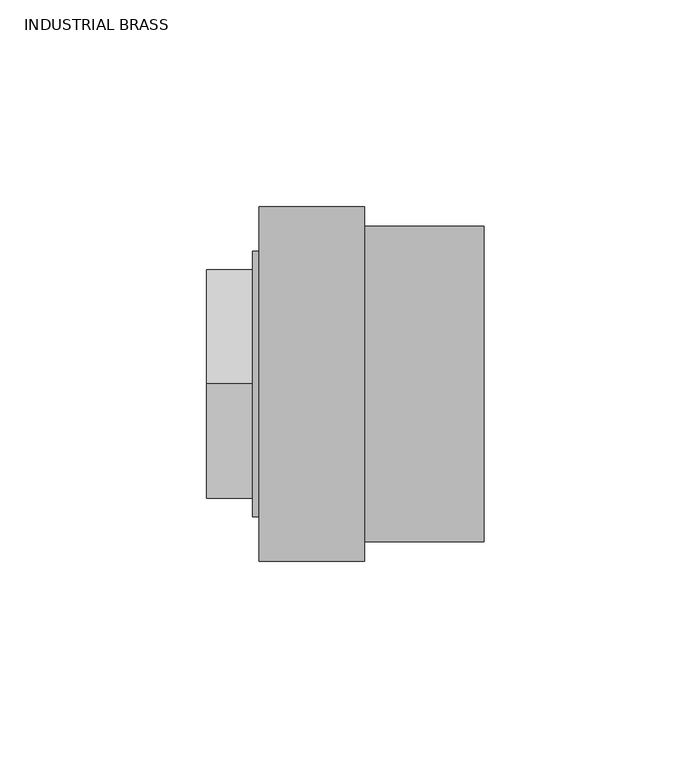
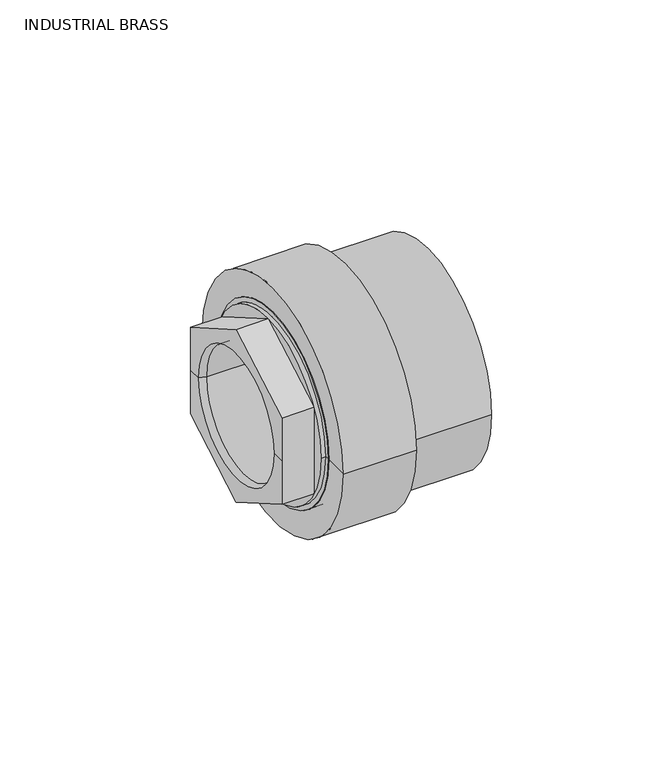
"""IFC4 building model written with IfcOpenShell, lengths in millimetres: valve geometry, Aquatherm - Transition Piece - F HEX : INDUSTRIAL BRASS."""

from ifc_helpers import new_model, si_unit, frame, origin, place, context, project, spatial, polyline, circle_curve, source, transform, mapped, element, save
from ifc_brep_helpers import plane_surface, cylinder_surface, revolved_surface, advanced_brep


def industrial_brass_2c6236fe(model_context):
    return source(origin(), model_context, "Body", "AdvancedBrep", [
        advanced_brep(
        [(9.525, -22.225, 0.0), (9.525, 22.225, 0.0), (-10.1203125, 22.225, 0.0), (-10.1203125, -22.225, 0.0), (9.525, -23.01875, 0.0), (9.525, 23.01875, 0.0), (12.7, -23.01875, 0.0), (12.7, 23.01875, 0.0), (12.7, -19.05, 0.0), (12.7, 19.05, 0.0), (15.875, -19.05, 0.0), (15.875, 19.05, 0.0), (15.875, -33.782, 0.0), (15.875, 33.782, 0.0), (0.0, -33.782, 0.0), (0.0, 33.782, 0.0), (-12.7, -23.01875, 0.0), (-12.7, 23.01875, 0.0), (-12.7, 27.559, 0.0), (-12.7, 27.559, -15.9111961), (-12.7, 0.0, -31.8223921), (-12.7, -27.559, -15.9111961), (-12.7, -27.559, 0.0), (-12.7, -27.559, 15.9111961), (-12.7, 0.0, 31.8223921), (-12.7, 27.559, 15.9111961), (0.0, -32.131, 0.0), (0.0, 32.131, 0.0), (-1.5875, -32.131, 0.0), (-1.5875, 32.131, 0.0), (-1.5875, 0.0, -31.8223921), (-1.5875, 27.559, -15.9111961), (-1.5875, 27.559, 15.9111961), (-1.5875, 0.0, 31.8223921), (-1.5875, -27.559, 15.9111961), (-1.5875, -27.559, -15.9111961)],
        [
            (0, 1, circle_curve(frame((9.525, 0.0, 0.0), z_axis=(1.0, 0.0, 0.0), x_axis=(0.0, 1.0, 0.0)), 22.225)),
            (1, 2),
            (2, 3, circle_curve(frame((-10.1203125, 0.0, 0.0), z_axis=(-1.0, 0.0, 0.0), x_axis=(0.0, 1.0, 0.0)), 22.225)),
            (3, 0),
            (1, 0, circle_curve(frame((9.525, 0.0, 0.0), z_axis=(1.0, 0.0, 0.0), x_axis=(0.0, 1.0, 0.0)), 22.225)),
            (3, 2, circle_curve(frame((-10.1203125, 0.0, 0.0), z_axis=(-1.0, 0.0, 0.0), x_axis=(0.0, 1.0, 0.0)), 22.225)),
            (0, 4),
            (4, 5, circle_curve(frame((9.525, 0.0, 0.0), z_axis=(1.0, 0.0, 0.0), x_axis=(0.0, 1.0, 0.0)), 23.01875)),
            (5, 1),
            (5, 4, circle_curve(frame((9.525, 0.0, 0.0), z_axis=(1.0, 0.0, 0.0), x_axis=(0.0, 1.0, 0.0)), 23.01875)),
            (4, 6),
            (6, 7, circle_curve(frame((12.7, 0.0, 0.0), z_axis=(1.0, 0.0, 0.0), x_axis=(0.0, 1.0, 0.0)), 23.01875)),
            (7, 5),
            (7, 6, circle_curve(frame((12.7, 0.0, 0.0), z_axis=(1.0, 0.0, 0.0), x_axis=(0.0, 1.0, 0.0)), 23.01875)),
            (6, 8),
            (8, 9, circle_curve(frame((12.7, 0.0, 0.0), z_axis=(1.0, 0.0, 0.0), x_axis=(0.0, 1.0, 0.0)), 19.05)),
            (9, 7),
            (9, 8, circle_curve(frame((12.7, 0.0, 0.0), z_axis=(1.0, 0.0, 0.0), x_axis=(0.0, 1.0, 0.0)), 19.05)),
            (8, 10),
            (10, 11, circle_curve(frame((15.875, 0.0, 0.0), z_axis=(1.0, 0.0, 0.0), x_axis=(0.0, 1.0, 0.0)), 19.05)),
            (11, 9),
            (11, 10, circle_curve(frame((15.875, 0.0, 0.0), z_axis=(1.0, 0.0, 0.0), x_axis=(0.0, 1.0, 0.0)), 19.05)),
            (10, 12),
            (12, 13, circle_curve(frame((15.875, 0.0, 0.0), z_axis=(1.0, 0.0, 0.0), x_axis=(0.0, 1.0, 0.0)), 33.782)),
            (13, 11),
            (13, 12, circle_curve(frame((15.875, 0.0, 0.0), z_axis=(1.0, 0.0, 0.0), x_axis=(0.0, 1.0, 0.0)), 33.782)),
            (12, 14),
            (14, 15, circle_curve(frame((0.0, 0.0, 0.0), z_axis=(1.0, 0.0, 0.0), x_axis=(0.0, 1.0, 0.0)), 33.782)),
            (15, 13),
            (15, 14, circle_curve(frame((0.0, 0.0, 0.0), z_axis=(1.0, 0.0, 0.0), x_axis=(0.0, 1.0, 0.0)), 33.782)),
            (16, 17, circle_curve(frame((-12.7, 0.0, 0.0), z_axis=(1.0, 0.0, 0.0), x_axis=(0.0, 1.0, 0.0)), 23.01875)),
            (17, 18),
            (18, 19),
            (19, 20),
            (20, 21),
            (21, 22),
            (22, 16),
            (17, 16, circle_curve(frame((-12.7, 0.0, 0.0), z_axis=(1.0, 0.0, 0.0), x_axis=(0.0, 1.0, 0.0)), 23.01875)),
            (22, 23),
            (23, 24),
            (24, 25),
            (25, 18),
            (2, 17),
            (16, 3),
            (14, 26),
            (26, 27, circle_curve(frame((0.0, 0.0, 0.0), z_axis=(1.0, 0.0, 0.0), x_axis=(0.0, 1.0, 0.0)), 32.131)),
            (27, 15),
            (27, 26, circle_curve(frame((0.0, 0.0, 0.0), z_axis=(1.0, 0.0, 0.0), x_axis=(0.0, 1.0, 0.0)), 32.131)),
            (26, 28),
            (28, 29, circle_curve(frame((-1.5875, 0.0, 0.0), z_axis=(1.0, 0.0, 0.0), x_axis=(0.0, 1.0, 0.0)), 32.131)),
            (29, 27),
            (29, 28, circle_curve(frame((-1.5875, 0.0, 0.0), z_axis=(1.0, 0.0, 0.0), x_axis=(0.0, 1.0, 0.0)), 32.131)),
            (30, 31),
            (31, 32),
            (32, 33),
            (33, 34),
            (34, 35),
            (35, 30),
            (35, 21),
            (20, 30),
            (34, 23),
            (33, 24),
            (32, 25),
            (31, 19),
        ],
        [
            revolved_surface(polyline([(-10.1203125, 22.225, 0.0), (9.525000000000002, 22.225, 0.0)]), (-14.5332251, 0.0, 0.0), (-1.0, 0.0, 0.0)),
            plane_surface(frame((9.525, 0.0, 0.0), z_axis=(1.0, 0.0, 0.0), x_axis=(0.0, 1.0, 0.0))),
            revolved_surface(polyline([(9.525000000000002, 23.01875, 0.0), (12.7, 23.01875, 0.0)]), (-14.5332251, 0.0, 0.0), (-1.0, 0.0, 0.0)),
            plane_surface(frame((12.7, 0.0, 0.0), z_axis=(-1.0, 0.0, 0.0), x_axis=(0.0, 1.0, 0.0))),
            revolved_surface(polyline([(12.7, 19.05, 0.0), (15.875, 19.05, 0.0)]), (-14.5332251, 0.0, 0.0), (-1.0, 0.0, 0.0)),
            plane_surface(frame((15.875, 0.0, 0.0), z_axis=(1.0, 0.0, 0.0), x_axis=(0.0, 1.0, 0.0))),
            cylinder_surface(frame((-14.5332251, 0.0, 0.0), z_axis=(-1.0, 0.0, 0.0), x_axis=(0.0, 1.0, 0.0)), 33.782),
            plane_surface(frame((-12.7, 0.0, 0.0), z_axis=(-1.0, 0.0, 0.0), x_axis=(0.0, 1.0, 0.0))),
            revolved_surface(polyline([(-12.7, 23.01875, 0.0), (-10.1203125, 22.225, 0.0)]), (-14.5332251, 0.0, 0.0), (-1.0, 0.0, 0.0)),
            plane_surface(frame((0.0, 0.0, 0.0), z_axis=(-1.0, 0.0, 0.0), x_axis=(0.0, 1.0, 0.0))),
            cylinder_surface(frame((-14.5332251, 0.0, 0.0), z_axis=(-1.0, 0.0, 0.0), x_axis=(0.0, 1.0, 0.0)), 32.131),
            plane_surface(frame((-1.5875, -27.559, -15.9111961), z_axis=(-1.0000000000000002, 0.0, 0.0), x_axis=(0.0, -0.8660254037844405, 0.499999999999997))),
            plane_surface(frame((-1.5875, 0.0, -31.8223921), z_axis=(0.0, -0.499999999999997, -0.8660254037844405), x_axis=(-1.0, 0.0, 0.0))),
            plane_surface(frame((-1.5875, -27.559, -15.9111961), z_axis=(0.0, -1.0, 0.0), x_axis=(-1.0, 0.0, 0.0))),
            plane_surface(frame((-1.5875, -27.559, 15.9111961), z_axis=(0.0, -0.5000000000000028, 0.866025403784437), x_axis=(-1.0, 0.0, 0.0))),
            plane_surface(frame((-1.5875, 0.0, 31.8223921), z_axis=(0.0, 0.49999999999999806, 0.8660254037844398), x_axis=(-1.0, 0.0, 0.0))),
            plane_surface(frame((-1.5875, 27.559, 15.9111961), z_axis=(0.0, 1.0, 0.0), x_axis=(-1.0, 0.0, 0.0))),
            plane_surface(frame((-1.5875, 27.559, -15.9111961), z_axis=(0.0, 0.5000000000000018, -0.8660254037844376), x_axis=(-1.0, 0.0, 0.0))),
        ],
        [
            (0, [[1, 2, 3, 4]]),
            (0, [[-2, 5, -4, 6]]),
            (1, [[-1, 7, 8, 9]]),
            (1, [[-5, -9, 10, -7]]),
            (2, [[-8, 11, 12, 13]]),
            (2, [[-10, -13, 14, -11]]),
            (3, [[-12, 15, 16, 17]]),
            (3, [[-14, -17, 18, -15]]),
            (4, [[-16, 19, 20, 21]]),
            (4, [[-18, -21, 22, -19]]),
            (5, [[-20, 23, 24, 25]]),
            (5, [[-22, -25, 26, -23]]),
            (6, [[-24, 27, 28, 29]]),
            (6, [[-26, -29, 30, -27]]),
            (7, [[31, 32, 33, 34, 35, 36, 37]]),
            (7, [[38, -37, 39, 40, 41, 42, -32]]),
            (8, [[-3, 43, -31, 44]]),
            (8, [[-6, -44, -38, -43]]),
            (9, [[-28, 45, 46, 47]]),
            (9, [[-30, -47, 48, -45]]),
            (10, [[-46, 49, 50, 51]]),
            (10, [[-48, -51, 52, -49]]),
            (11, [[-50, -52], [53, 54, 55, 56, 57, 58]]),
            (12, [[-58, 59, -35, 60]]),
            (13, [[-57, 61, -39, -36, -59]]),
            (14, [[-56, 62, -40, -61]]),
            (15, [[-55, 63, -41, -62]]),
            (16, [[-54, 64, -33, -42, -63]]),
            (17, [[-53, -60, -34, -64]]),
        ],
    ),
        advanced_brep(
        [(0.0, -42.799, 0.0), (0.0, 42.799, 0.0), (25.4, 42.799, 0.0), (25.4, -42.799, 0.0), (0.0, -33.782, 0.0), (0.0, 33.782, 0.0), (15.875, -33.782, 0.0), (15.875, 33.782, 0.0), (15.875, -19.05, 0.0), (15.875, 19.05, 0.0), (30.988, -19.05, 0.0), (30.988, 19.05, 0.0), (30.988, -25.019, 0.0), (30.988, 25.019, 0.0), (54.356, -25.019, 0.0), (54.356, 25.019, 0.0), (54.356, -38.1, 0.0), (54.356, 38.1, 0.0), (25.4, -38.1, 0.0), (25.4, 38.1, 0.0)],
        [
            (0, 1, circle_curve(frame((0.0, 0.0, 0.0), z_axis=(1.0, 0.0, 0.0), x_axis=(0.0, 1.0, 0.0)), 42.799)),
            (1, 2),
            (2, 3, circle_curve(frame((25.4, 0.0, 0.0), z_axis=(-1.0, 0.0, 0.0), x_axis=(0.0, 1.0, 0.0)), 42.799)),
            (3, 0),
            (1, 0, circle_curve(frame((0.0, 0.0, 0.0), z_axis=(1.0, 0.0, 0.0), x_axis=(0.0, 1.0, 0.0)), 42.799)),
            (3, 2, circle_curve(frame((25.4, 0.0, 0.0), z_axis=(-1.0, 0.0, 0.0), x_axis=(0.0, 1.0, 0.0)), 42.799)),
            (4, 5, circle_curve(frame((0.0, 0.0, 0.0), z_axis=(1.0, 0.0, 0.0), x_axis=(0.0, 1.0, 0.0)), 33.782)),
            (5, 1),
            (0, 4),
            (5, 4, circle_curve(frame((0.0, 0.0, 0.0), z_axis=(1.0, 0.0, 0.0), x_axis=(0.0, 1.0, 0.0)), 33.782)),
            (6, 7, circle_curve(frame((15.875, 0.0, 0.0), z_axis=(1.0, 0.0, 0.0), x_axis=(0.0, 1.0, 0.0)), 33.782)),
            (7, 5),
            (4, 6),
            (7, 6, circle_curve(frame((15.875, 0.0, 0.0), z_axis=(1.0, 0.0, 0.0), x_axis=(0.0, 1.0, 0.0)), 33.782)),
            (8, 9, circle_curve(frame((15.875, 0.0, 0.0), z_axis=(1.0, 0.0, 0.0), x_axis=(0.0, 1.0, 0.0)), 19.05)),
            (9, 7),
            (6, 8),
            (9, 8, circle_curve(frame((15.875, 0.0, 0.0), z_axis=(1.0, 0.0, 0.0), x_axis=(0.0, 1.0, 0.0)), 19.05)),
            (10, 11, circle_curve(frame((30.988, 0.0, 0.0), z_axis=(1.0, 0.0, 0.0), x_axis=(0.0, 1.0, 0.0)), 19.05)),
            (11, 9),
            (8, 10),
            (11, 10, circle_curve(frame((30.988, 0.0, 0.0), z_axis=(1.0, 0.0, 0.0), x_axis=(0.0, 1.0, 0.0)), 19.05)),
            (12, 13, circle_curve(frame((30.988, 0.0, 0.0), z_axis=(1.0, 0.0, 0.0), x_axis=(0.0, 1.0, 0.0)), 25.019)),
            (13, 11),
            (10, 12),
            (13, 12, circle_curve(frame((30.988, 0.0, 0.0), z_axis=(1.0, 0.0, 0.0), x_axis=(0.0, 1.0, 0.0)), 25.019)),
            (14, 15, circle_curve(frame((54.356, 0.0, 0.0), z_axis=(1.0, 0.0, 0.0), x_axis=(0.0, 1.0, 0.0)), 25.019)),
            (15, 13),
            (12, 14),
            (15, 14, circle_curve(frame((54.356, 0.0, 0.0), z_axis=(1.0, 0.0, 0.0), x_axis=(0.0, 1.0, 0.0)), 25.019)),
            (16, 17, circle_curve(frame((54.356, 0.0, 0.0), z_axis=(1.0, 0.0, 0.0), x_axis=(0.0, 1.0, 0.0)), 38.1)),
            (17, 15),
            (14, 16),
            (17, 16, circle_curve(frame((54.356, 0.0, 0.0), z_axis=(1.0, 0.0, 0.0), x_axis=(0.0, 1.0, 0.0)), 38.1)),
            (18, 19, circle_curve(frame((25.4, 0.0, 0.0), z_axis=(1.0, 0.0, 0.0), x_axis=(0.0, 1.0, 0.0)), 38.1)),
            (19, 17),
            (16, 18),
            (19, 18, circle_curve(frame((25.4, 0.0, 0.0), z_axis=(1.0, 0.0, 0.0), x_axis=(0.0, 1.0, 0.0)), 38.1)),
            (2, 19),
            (18, 3),
        ],
        [
            cylinder_surface(frame((-20.8031162, 0.0, 0.0), z_axis=(-1.0, 0.0, 0.0), x_axis=(0.0, 1.0, 0.0)), 42.799),
            plane_surface(frame((0.0, 0.0, 0.0), z_axis=(-1.0, 0.0, 0.0), x_axis=(0.0, 1.0, 0.0))),
            revolved_surface(polyline([(0.0, 33.782, 0.0), (15.875000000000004, 33.782, 0.0)]), (-20.8031162, 0.0, 0.0), (-1.0, 0.0, 0.0)),
            plane_surface(frame((15.875, 0.0, 0.0), z_axis=(-1.0, 0.0, 0.0), x_axis=(0.0, 1.0, 0.0))),
            revolved_surface(polyline([(15.875000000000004, 19.05, 0.0), (30.988000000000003, 19.05, 0.0)]), (-20.8031162, 0.0, 0.0), (-1.0, 0.0, 0.0)),
            plane_surface(frame((30.988, 0.0, 0.0), z_axis=(1.0, 0.0, 0.0), x_axis=(0.0, 1.0, 0.0))),
            revolved_surface(polyline([(30.988000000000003, 25.019, 0.0), (54.355999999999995, 25.019, 0.0)]), (-20.8031162, 0.0, 0.0), (-1.0, 0.0, 0.0)),
            plane_surface(frame((54.356, 0.0, 0.0), z_axis=(1.0, 0.0, 0.0), x_axis=(0.0, 1.0, 0.0))),
            cylinder_surface(frame((-20.8031162, 0.0, 0.0), z_axis=(-1.0, 0.0, 0.0), x_axis=(0.0, 1.0, 0.0)), 38.1),
            plane_surface(frame((25.4, 0.0, 0.0), z_axis=(1.0, 0.0, 0.0), x_axis=(0.0, 1.0, 0.0))),
        ],
        [
            (0, [[1, 2, 3, 4]]),
            (0, [[5, -4, 6, -2]]),
            (1, [[7, 8, -1, 9]]),
            (1, [[10, -9, -5, -8]]),
            (2, [[11, 12, -7, 13]]),
            (2, [[14, -13, -10, -12]]),
            (3, [[15, 16, -11, 17]]),
            (3, [[18, -17, -14, -16]]),
            (4, [[19, 20, -15, 21]]),
            (4, [[22, -21, -18, -20]]),
            (5, [[23, 24, -19, 25]]),
            (5, [[26, -25, -22, -24]]),
            (6, [[27, 28, -23, 29]]),
            (6, [[30, -29, -26, -28]]),
            (7, [[31, 32, -27, 33]]),
            (7, [[34, -33, -30, -32]]),
            (8, [[35, 36, -31, 37]]),
            (8, [[38, -37, -34, -36]]),
            (9, [[-3, 39, -35, 40]]),
            (9, [[-6, -40, -38, -39]]),
        ],
    ),
    ])


if __name__ == "__main__":
    model = new_model("IFC4")
    model_context = context("Model", 3, world=origin())
    ifc_project = project(units=[si_unit("LENGTHUNIT", "METRE", prefix="MILLI")], contexts=[model_context])
    site = spatial("IfcSite", under=ifc_project)
    building = spatial("IfcBuilding", under=site)
    placement = place(None, origin())
    industrial_brass_shape = industrial_brass_2c6236fe(model_context)
    element("IfcValve", 1, ObjectType="Aquatherm - Transition Piece - F HEX : INDUSTRIAL BRASS", at=placement, inside=building, context=model_context, shape_type="MappedRepresentation", body=[
        mapped(industrial_brass_shape, transform((0.0, 0.0, 0.0), x_axis=(1.0, 0.0, 0.0), y_axis=(0.0, 1.0, 0.0), z_axis=(0.0, 0.0, 1.0))),
    ])
    save(model, "model.ifc")
